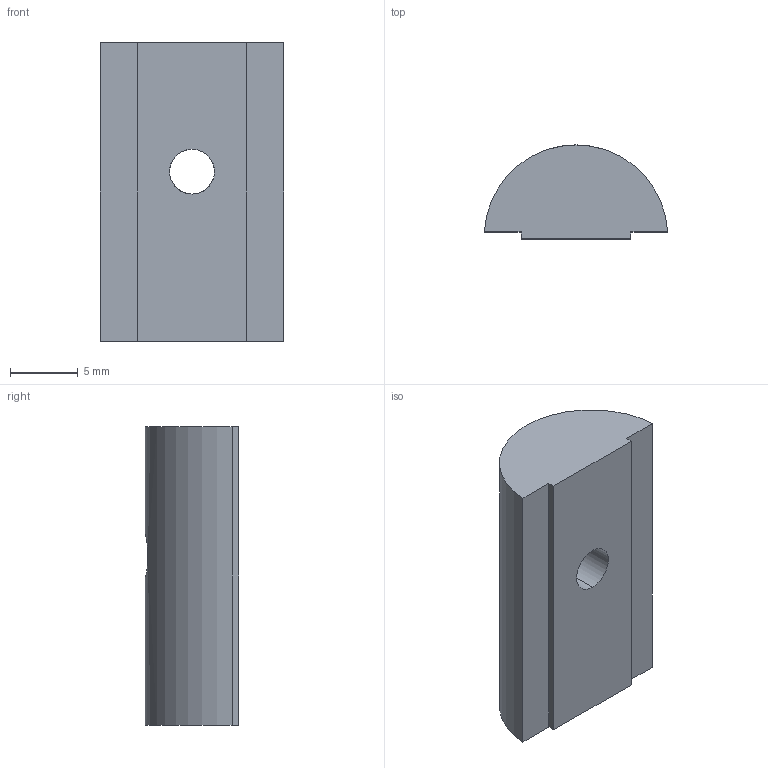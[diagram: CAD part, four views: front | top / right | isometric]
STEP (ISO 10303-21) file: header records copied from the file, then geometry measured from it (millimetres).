
FILE_DESCRIPTION (( 'STEP AP203' ), '1' );
FILE_NAME ('TCAN 4 Steel T-slot block M4 22mm (01-06-2021).STEP', '2021-06-01T06:39:54', ( '' ), ( '' ), 'SwSTEP 2.0', 'SolidWorks 2020', '' );
FILE_SCHEMA (( 'CONFIG_CONTROL_DESIGN' ));
Length unit declared in the file: millimetre
Products named in the file (1): TCAN 4 Steel T-slot block M4 22mm (01-06-2021)
Bounding box: 13.5 x 6.9 x 22 mm (x, y, z)
Volume: 1502.6 mm3; surface area: 965.6 mm2
Topology: 1 solids, 1 shells, 10 faces, 24 edges, 16 vertices
Faces by surface type: plane 7, cylinder 3
Entity records: 421 total; most frequent: CARTESIAN_POINT 103, ORIENTED_EDGE 48, DIRECTION 48, EDGE_CURVE 24, LINE 18, VECTOR 18, VERTEX_POINT 16, AXIS2_PLACEMENT_3D 15
